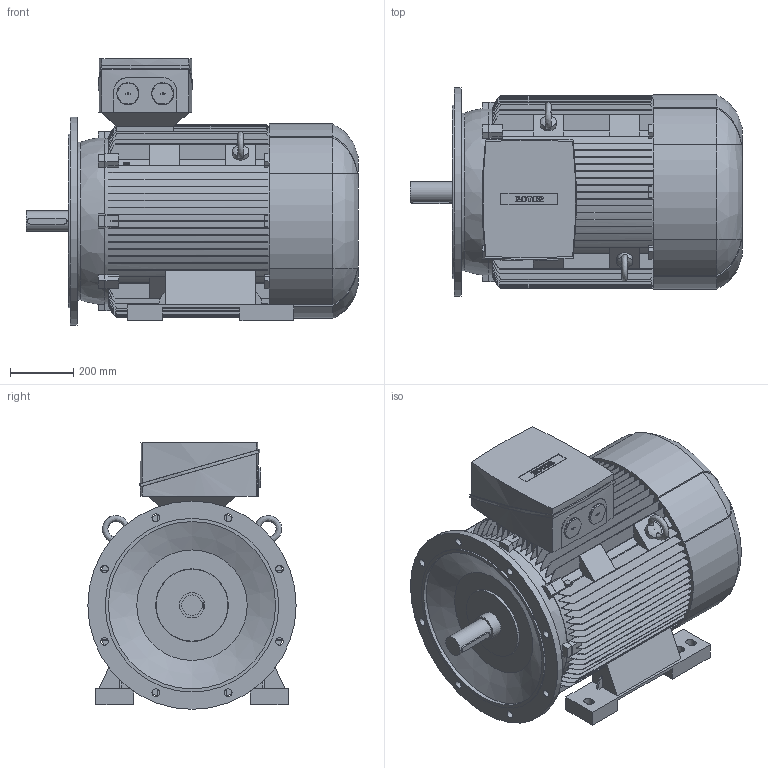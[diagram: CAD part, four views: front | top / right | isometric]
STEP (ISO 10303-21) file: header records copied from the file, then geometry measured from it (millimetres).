
FILE_DESCRIPTION (( 'STEP AP214' ), '1' );
FILE_NAME ('6RN315S02E10 IM2001.STEP', '2016-02-16T09:19:59', ( 'rotor' ), ( 'Hewlett-Packard Company' ), 'SwSTEP 2.0', 'SolidWorks 2012', '' );
FILE_SCHEMA (( 'AUTOMOTIVE_DESIGN' ));
Length unit declared in the file: millimetre
Products named in the file (1): 6RN315S02E10 IM2001
Bounding box: 1052 x 660 x 845 mm (x, y, z)
Volume: 246434999 mm3; surface area: 6371798.1 mm2
Topology: 1 solids, 1 shells, 1068 faces, 3068 edges, 2032 vertices
Faces by surface type: plane 683, bspline 216, cylinder 164, cone 5
Full cylindrical faces by diameter (mm): 5 x1, 24 x8, 50 x2, 65 x1, 70 x2, 80 x1, 500 x1, 530 x1, 550 x1, 660 x1
Entity records: 52419 total; most frequent: CARTESIAN_POINT 15435, ORIENTED_EDGE 6056, DIRECTION 4759, EDGE_CURVE 3028, VERTEX_POINT 2020, VECTOR 1833, LINE 1833, AXIS2_PLACEMENT_3D 1463
